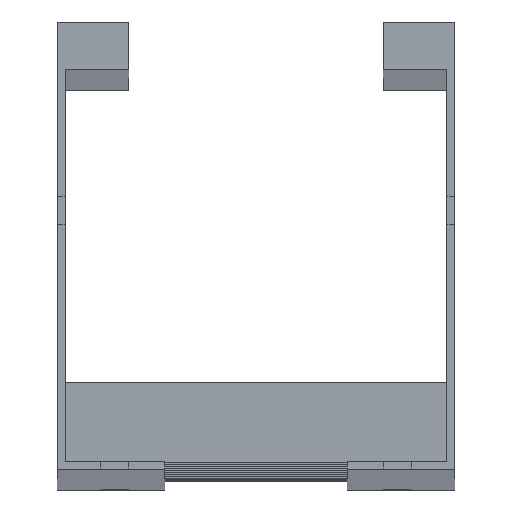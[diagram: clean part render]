
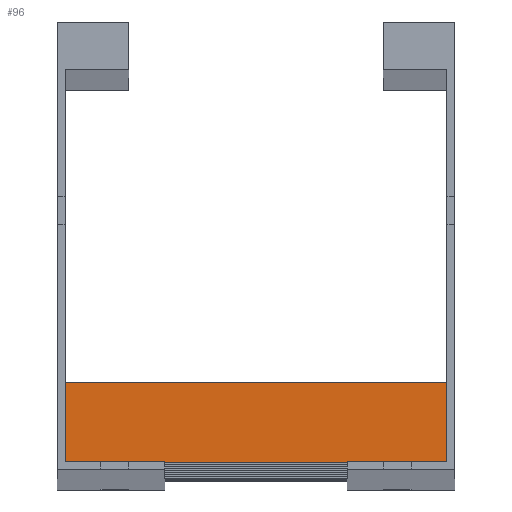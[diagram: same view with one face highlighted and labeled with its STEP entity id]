
A CAD part, top view. The second image highlights one B-rep face of the part: STEP entity #96.
In plain terms, the highlighted planar face has unit normal (0, 0, 1).
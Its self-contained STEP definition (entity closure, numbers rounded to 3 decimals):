
#7 = CARTESIAN_POINT ( 'NONE',  ( 48., 20., 20.25 ) ) ;
#14 = CARTESIAN_POINT ( 'NONE',  ( 48., 0., 20.25 ) ) ;
#89 = VERTEX_POINT ( 'NONE', #166 ) ;
#96 = ADVANCED_FACE ( 'NONE', ( #310 ), #1015, .F. ) ;
#154 = CARTESIAN_POINT ( 'NONE',  ( 48., 0., 20.25 ) ) ;
#166 = CARTESIAN_POINT ( 'NONE',  ( -48., 20., 20.25 ) ) ;
#255 = CARTESIAN_POINT ( 'NONE',  ( 48., 20., 20.25 ) ) ;
#310 = FACE_OUTER_BOUND ( 'NONE', #456, .T. ) ;
#342 = EDGE_CURVE ( 'NONE', #760, #1663, #965, .T. ) ;
#355 = LINE ( 'NONE', #255, #568 ) ;
#416 = VECTOR ( 'NONE', #1037, 1000. ) ;
#437 = CARTESIAN_POINT ( 'NONE',  ( -48., 0., 20.25 ) ) ;
#456 = EDGE_LOOP ( 'NONE', ( #1406, #557, #877, #1362 ) ) ;
#551 = LINE ( 'NONE', #154, #1107 ) ;
#557 = ORIENTED_EDGE ( 'NONE', *, *, #1662, .F. ) ;
#568 = VECTOR ( 'NONE', #1567, 1000. ) ;
#581 = EDGE_CURVE ( 'NONE', #89, #1333, #901, .T. ) ;
#597 = CARTESIAN_POINT ( 'NONE',  ( 48., 20., 20.25 ) ) ;
#760 = VERTEX_POINT ( 'NONE', #972 ) ;
#877 = ORIENTED_EDGE ( 'NONE', *, *, #342, .F. ) ;
#901 = LINE ( 'NONE', #1176, #416 ) ;
#965 = LINE ( 'NONE', #7, #1549 ) ;
#972 = CARTESIAN_POINT ( 'NONE',  ( 48., 20., 20.25 ) ) ;
#1015 = PLANE ( 'NONE',  #1492 ) ;
#1037 = DIRECTION ( 'NONE',  ( 0., -1., 0. ) ) ;
#1054 = EDGE_CURVE ( 'NONE', #760, #89, #355, .T. ) ;
#1107 = VECTOR ( 'NONE', #1331, 1000. ) ;
#1146 = DIRECTION ( 'NONE',  ( 0., 1., 0. ) ) ;
#1176 = CARTESIAN_POINT ( 'NONE',  ( -48., 20., 20.25 ) ) ;
#1331 = DIRECTION ( 'NONE',  ( -1., 0., 0. ) ) ;
#1333 = VERTEX_POINT ( 'NONE', #437 ) ;
#1362 = ORIENTED_EDGE ( 'NONE', *, *, #1054, .T. ) ;
#1406 = ORIENTED_EDGE ( 'NONE', *, *, #581, .T. ) ;
#1492 = AXIS2_PLACEMENT_3D ( 'NONE', #597, #1678, #1146 ) ;
#1498 = DIRECTION ( 'NONE',  ( 0., -1., 0. ) ) ;
#1549 = VECTOR ( 'NONE', #1498, 1000. ) ;
#1567 = DIRECTION ( 'NONE',  ( -1., 0., 0. ) ) ;
#1662 = EDGE_CURVE ( 'NONE', #1663, #1333, #551, .T. ) ;
#1663 = VERTEX_POINT ( 'NONE', #14 ) ;
#1678 = DIRECTION ( 'NONE',  ( 0., 0., -1. ) ) ;
